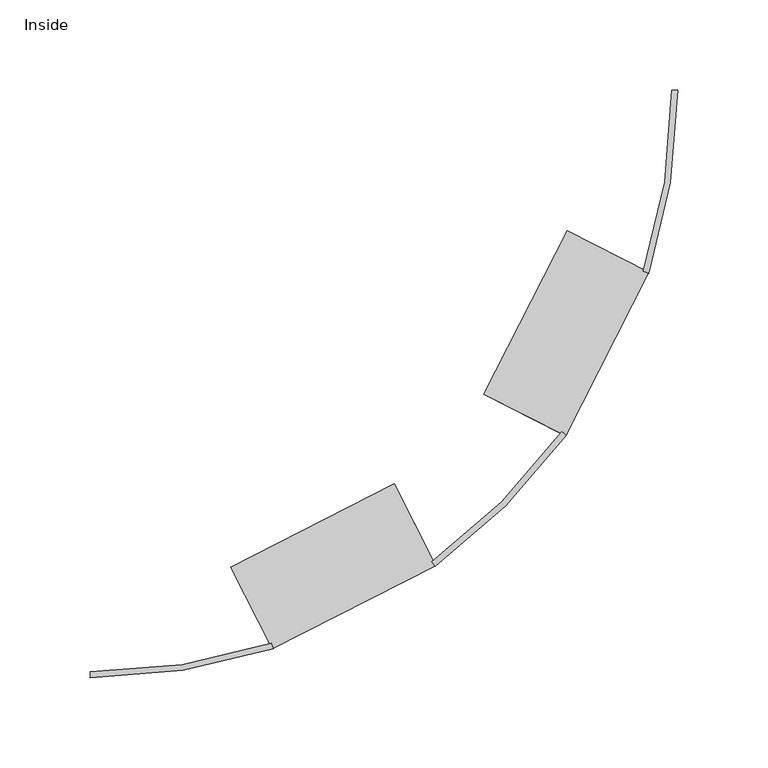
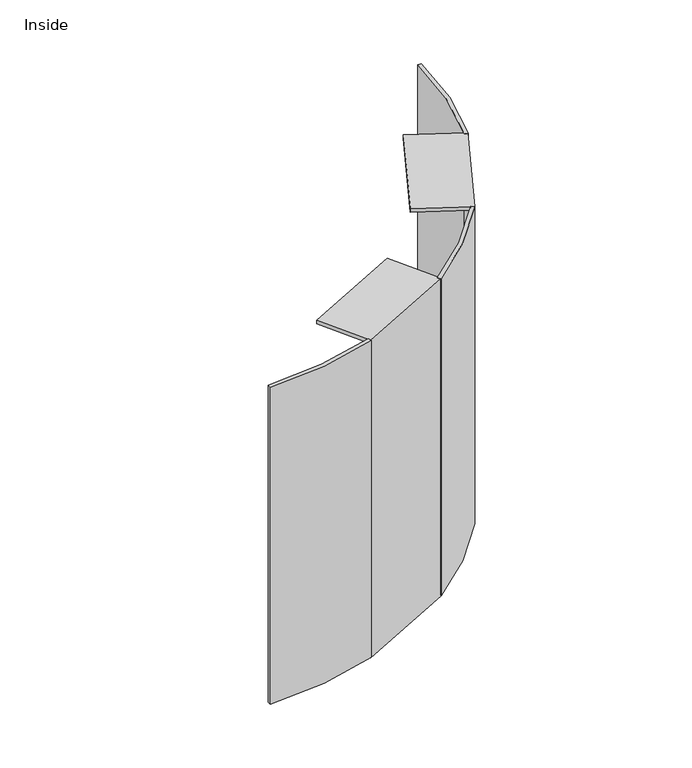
"""IFC4 building model written with IfcOpenShell, lengths in millimetres: cable carrier fitting geometry, Bend-Vertical-Cablofil-Wire_Mesh_Cable_Tray : Inside."""

from ifc_helpers import new_model, si_unit, point, frame, frame_2d, origin, place, context, project, spatial, polyline, circle_curve, trimmed, segment, composite_curve, outline, extrude, source, transform, mapped, element, save


def inside_b042d5d7(model_context):
    return source(origin(), model_context, "Body", "SweptSolid", [
        extrude(outline(composite_curve([segment(polyline([(-38.8642405, 110.7062894), (-36.2956115, 108.8400712)]), True, "CONTINUOUS"), segment(trimmed(circle_curve(frame_2d((-301.5816877, 301.5816877)), 327.9116237), [point((-36.2956115, 108.8400712))], [point((-108.8400712, 36.2956115))], False, "CARTESIAN"), True, "CONTINUOUS"), segment(polyline([(-108.8400712, 36.2956115), (-110.7062894, 38.8642405)]), True, "CONTINUOUS"), segment(trimmed(circle_curve(frame_2d((-301.5816877, 301.5816877)), 324.7366237), [point((-110.7062894, 38.8642405))], [point((-38.8642405, 110.7062894))], True, "CARTESIAN"), True, "CONTINUOUS")], self_intersect=False)), frame((0.0, 0.0, -152.4), z_axis=(0.0, 0.0, 1.0), x_axis=(1.0, 0.0, 0.0)), (0.0, 0.0, 1.0), 304.8),
        extrude(outline(composite_curve([segment(polyline([(-199.4841677, -6.3703479), (-198.5030387, -9.3899523)]), True, "CONTINUOUS"), segment(trimmed(circle_curve(frame_2d((-299.8333031, 302.4725341)), 327.9116237), [point((-198.5030387, -9.3899523))], [point((-299.8333031, -25.4390895))], False, "CARTESIAN"), True, "CONTINUOUS"), segment(polyline([(-299.8333031, -25.4390895), (-299.8333031, -22.2640895)]), True, "CONTINUOUS"), segment(trimmed(circle_curve(frame_2d((-299.8333031, 302.4725341)), 324.7366237), [point((-299.8333031, -22.2640895))], [point((-199.4841677, -6.3703479))], True, "CARTESIAN"), True, "CONTINUOUS")], self_intersect=False)), frame((0.0, 0.0, -152.4), z_axis=(0.0, 0.0, 1.0), x_axis=(1.0, 0.0, 0.0)), (0.0, 0.0, 1.0), 304.8),
        extrude(outline(composite_curve([segment(polyline([(22.2640895, 299.8333031), (25.4390895, 299.8333031)]), True, "CONTINUOUS"), segment(trimmed(circle_curve(frame_2d((-302.4725341, 299.8333031)), 327.9116237), [point((25.4390895, 299.8333031))], [point((9.3899523, 198.5030387))], False, "CARTESIAN"), True, "CONTINUOUS"), segment(polyline([(9.3899523, 198.5030387), (6.3703479, 199.4841677)]), True, "CONTINUOUS"), segment(trimmed(circle_curve(frame_2d((-302.4725341, 299.8333031)), 324.7366237), [point((6.3703479, 199.4841677))], [point((22.2640895, 299.8333031))], True, "CARTESIAN"), True, "CONTINUOUS")], self_intersect=False)), frame((0.0, 0.0, -152.4), z_axis=(0.0, 0.0, 1.0), x_axis=(1.0, 0.0, 0.0)), (0.0, 0.0, 1.0), 304.8),
        extrude(outline(polyline([(-50.8000001, 0.0), (0.0, 0.0), (0.0, -304.8), (-50.8000001, -304.8), (-50.8000001, -301.625), (-3.1750001, -301.625), (-3.1750001, -3.175), (-50.8000001, -3.175), (-50.8000001, 0.0)])), frame((-198.9874882, -9.5062584, -152.4), z_axis=(0.8910065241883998, 0.4539904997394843, 0.0), x_axis=(0.4539904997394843, -0.8910065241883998, 0.0)), (0.0, 0.0, 1.0), 101.6),
        extrude(outline(polyline([(-50.8000001, 0.0), (0.0, 0.0), (0.0, -304.8), (-50.8000001, -304.8), (-50.8000001, -301.625), (-3.175, -301.625), (-3.175, -3.175), (-50.8000001, -3.175), (-50.8000001, 0.0)])), frame((-36.6191764, 108.4612254, -152.4), z_axis=(0.45399049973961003, 0.8910065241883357, 0.0), x_axis=(0.8910065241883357, -0.45399049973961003, 0.0)), (0.0, 0.0, 1.0), 101.6),
    ])


if __name__ == "__main__":
    model = new_model("IFC4")
    model_context = context("Model", 3, world=origin())
    ifc_project = project(units=[si_unit("LENGTHUNIT", "METRE", prefix="MILLI")], contexts=[model_context])
    site = spatial("IfcSite", under=ifc_project)
    building = spatial("IfcBuilding", under=site)
    placement = place(None, origin())
    inside_shape = inside_b042d5d7(model_context)
    element("IfcCableCarrierFitting", 1, ObjectType="Bend-Vertical-Cablofil-Wire_Mesh_Cable_Tray : Inside", at=placement, inside=building, context=model_context, shape_type="MappedRepresentation", body=[
        mapped(inside_shape, transform((0.0, 0.0, 0.0), x_axis=(1.0, 0.0, 0.0), y_axis=(0.0, 1.0, 0.0), z_axis=(0.0, 0.0, 1.0))),
    ])
    save(model, "model.ifc")
